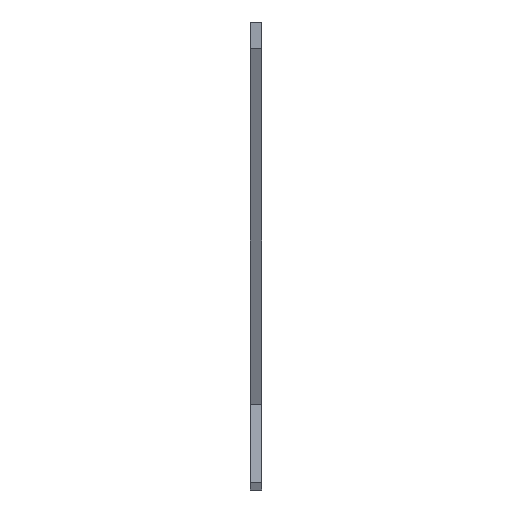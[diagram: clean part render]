
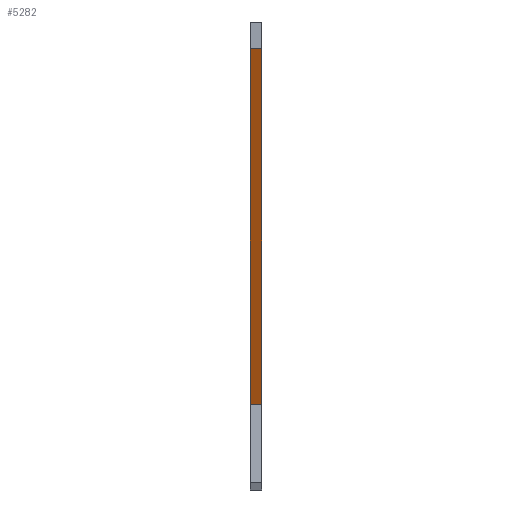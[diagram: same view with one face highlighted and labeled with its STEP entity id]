
A CAD part, left-side view. The second image highlights one B-rep face of the part: STEP entity #5282.
In plain terms, the highlighted planar face has unit normal (-0.128, 0, -0.992).
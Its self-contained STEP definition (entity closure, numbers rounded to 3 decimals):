
#736=DIRECTION('',(-0.992,0.,0.128));
#737=VECTOR('',#736,737.494);
#738=CARTESIAN_POINT('',(1362.961,-19.,121.023));
#739=LINE('',#738,#737);
#1394=DIRECTION('',(-0.992,0.,0.128));
#1395=VECTOR('',#1394,737.494);
#1396=CARTESIAN_POINT('',(1362.961,-16.,121.023));
#1397=LINE('',#1396,#1395);
#1986=DIRECTION('',(0.,1.,0.));
#1987=VECTOR('',#1986,3.);
#1988=CARTESIAN_POINT('',(631.55,-19.,215.546));
#1989=LINE('',#1988,#1987);
#1990=DIRECTION('',(0.,1.,0.));
#1991=VECTOR('',#1990,3.);
#1992=CARTESIAN_POINT('',(1362.961,-19.,121.023));
#1993=LINE('',#1992,#1991);
#2219=CARTESIAN_POINT('',(631.55,-19.,215.546));
#2221=VERTEX_POINT('',#2219);
#2223=CARTESIAN_POINT('',(631.55,-16.,215.546));
#2225=VERTEX_POINT('',#2223);
#2516=CARTESIAN_POINT('',(1362.961,-19.,121.023));
#2517=CARTESIAN_POINT('',(1362.961,-16.,121.023));
#2518=VERTEX_POINT('',#2516);
#2519=VERTEX_POINT('',#2517);
#5270=CARTESIAN_POINT('',(1362.961,-19.,121.023));
#5271=DIRECTION('',(-0.128,0.,-0.992));
#5272=DIRECTION('',(-0.992,0.,0.128));
#5273=AXIS2_PLACEMENT_3D('',#5270,#5271,#5272);
#5274=PLANE('',#5273);
#5275=ORIENTED_EDGE('',*,*,#5262,.F.);
#5276=ORIENTED_EDGE('',*,*,#2593,.F.);
#5278=ORIENTED_EDGE('',*,*,#5277,.T.);
#5279=ORIENTED_EDGE('',*,*,#2981,.T.);
#5280=EDGE_LOOP('',(#5275,#5276,#5278,#5279));
#5281=FACE_OUTER_BOUND('',#5280,.F.);
#5282=ADVANCED_FACE('',(#5281),#5274,.T.);
#2593=EDGE_CURVE('',#2518,#2221,#739,.T.);
#2981=EDGE_CURVE('',#2519,#2225,#1397,.T.);
#5262=EDGE_CURVE('',#2221,#2225,#1989,.T.);
#5277=EDGE_CURVE('',#2518,#2519,#1993,.T.);
